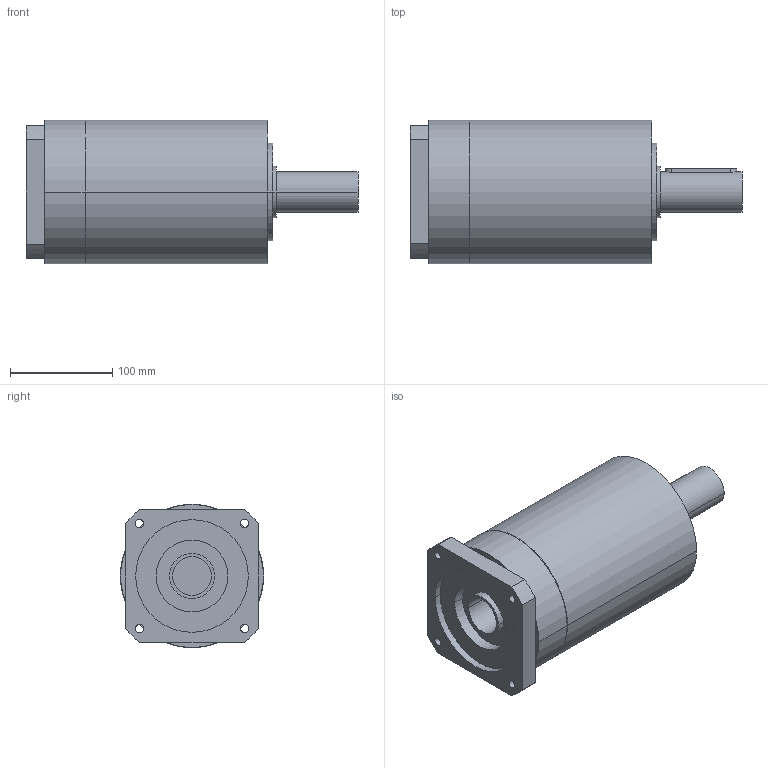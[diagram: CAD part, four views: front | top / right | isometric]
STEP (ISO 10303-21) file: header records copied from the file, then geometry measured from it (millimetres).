
FILE_DESCRIPTION(('CoCreate Modeling STEP Export'),'2;1');
FILE_NAME('GPR150_ig-9-12-16-20-28-35_40_B14_38_P08.stp','2014-08-19T17:04:33',(''),(''),'CoCreate Modeling STEP processor for AP214 (Solid Model)','CoCreate Modeling 16.00C 25-Feb-2009 (C) Parametric Technology GmbH','');
FILE_SCHEMA(('AUTOMOTIVE_DESIGN { 1 0 10303 214 1 1 1 1 }'));
Length unit declared in the file: millimetre
Products named in the file (2): GPR150_ig-9-12-16-20-28-35_40_B14_38_P08
Assembly tree (1 placements, depth 2):
  GPR150_ig-9-12-16-20-28-35_40_B14_38_P08
    GPR150_ig-9-12-16-20-28-35_40_B14_38_P08
Bounding box: 324 x 140 x 140 mm (x, y, z)
Volume: 3596291.4 mm3; surface area: 173484.9 mm2
Topology: 1 solids, 1 shells, 81 faces, 216 edges, 144 vertices
Faces by surface type: cylinder 42, plane 33, cone 6
Entity records: 2135 total; most frequent: ORIENTED_EDGE 428, CARTESIAN_POINT 405, DIRECTION 276, EDGE_CURVE 214, VERTEX_POINT 144, AXIS2_PLACEMENT_3D 103, EDGE_LOOP 98, FACE_OUTER_BOUND 81
